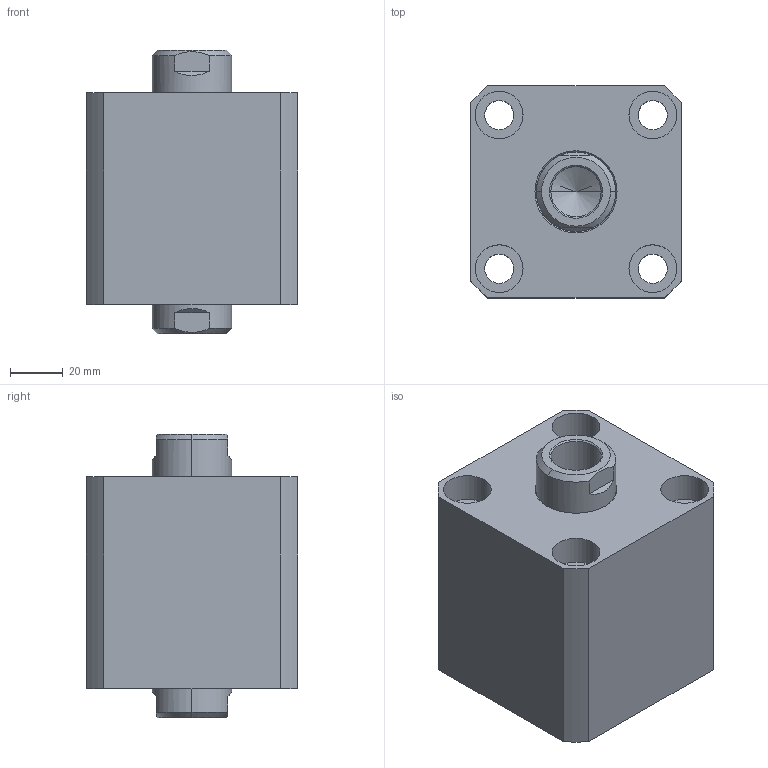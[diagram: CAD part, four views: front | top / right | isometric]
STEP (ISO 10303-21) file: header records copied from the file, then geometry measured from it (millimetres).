
FILE_DESCRIPTION (( 'STEP AP203' ), '1' );
FILE_NAME ('CHTB-SW50-5N.STEP', '2018-05-19T08:47:38', ( '' ), ( '' ), 'SwSTEP 2.0', 'SolidWorks 2015', '' );
FILE_SCHEMA (( 'CONFIG_CONTROL_DESIGN' ));
Length unit declared in the file: millimetre
Products named in the file (4): 活塞杆SW50-5N; CHTB-SW50-5N; 掛极SW50-5N; ヶ裔
Assembly tree (3 placements, depth 2):
  CHTB-SW50-5N
    掛极SW50-5N
    活塞杆SW50-5N
    ヶ裔
Bounding box: 80 x 80 x 107 mm (x, y, z)
Volume: 446698.7 mm3; surface area: 96108.2 mm2
Topology: 3 solids, 3 shells, 225 faces, 528 edges, 331 vertices
Faces by surface type: cylinder 118, plane 46, cone 33, torus 24, bspline 4
Entity records: 9698 total; most frequent: CARTESIAN_POINT 4235, DIRECTION 1104, ORIENTED_EDGE 1040, EDGE_CURVE 520, AXIS2_PLACEMENT_3D 462, VERTEX_POINT 331, EDGE_LOOP 271, CIRCLE 235
